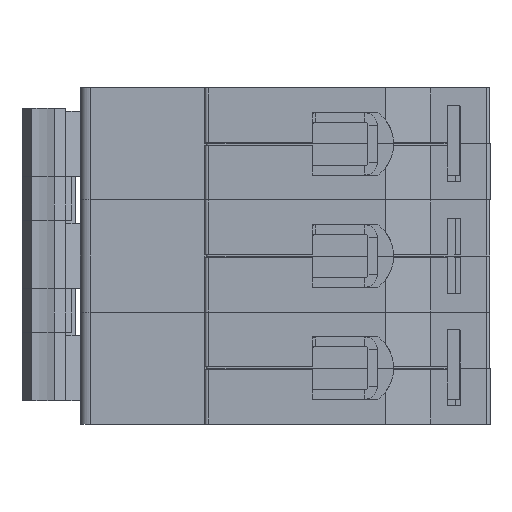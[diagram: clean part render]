
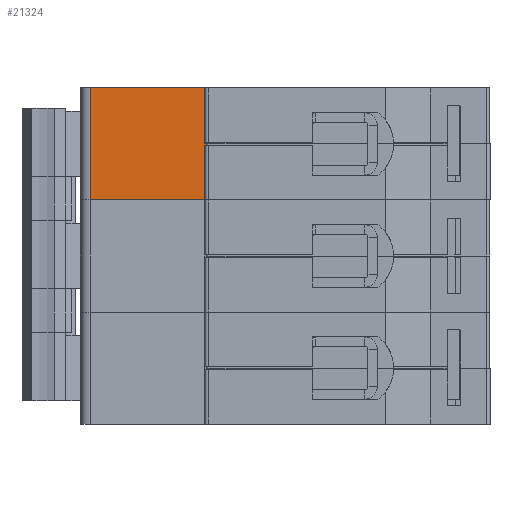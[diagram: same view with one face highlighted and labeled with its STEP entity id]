
A CAD part, left-side view. The second image highlights one B-rep face of the part: STEP entity #21324.
In plain terms, the highlighted planar face has unit normal (-1, 0, 0).
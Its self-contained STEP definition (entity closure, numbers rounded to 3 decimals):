
#92 = CARTESIAN_POINT ( 'NONE',  ( -14., -12., -9. ) ) ;
#357 = LINE ( 'NONE', #21350, #1688 ) ;
#462 = VECTOR ( 'NONE', #19351, 1000. ) ;
#581 = DIRECTION ( 'NONE',  ( 0., -1., 0. ) ) ;
#1417 = ORIENTED_EDGE ( 'NONE', *, *, #21599, .F. ) ;
#1688 = VECTOR ( 'NONE', #13024, 1000. ) ;
#1772 = CARTESIAN_POINT ( 'NONE',  ( -14., -12.2, -0.2 ) ) ;
#2041 = PLANE ( 'NONE',  #16080 ) ;
#2281 = VECTOR ( 'NONE', #9424, 1000. ) ;
#2636 = CARTESIAN_POINT ( 'NONE',  ( -14., -12., -1. ) ) ;
#2828 = LINE ( 'NONE', #5492, #3884 ) ;
#2841 = EDGE_CURVE ( 'NONE', #11385, #10227, #357, .T. ) ;
#2844 = EDGE_CURVE ( 'NONE', #10254, #20017, #18842, .T. ) ;
#2951 = DIRECTION ( 'NONE',  ( 0., 1., 0. ) ) ;
#2993 = VECTOR ( 'NONE', #21257, 1000. ) ;
#3543 = CARTESIAN_POINT ( 'NONE',  ( -14., -12., 0. ) ) ;
#3884 = VECTOR ( 'NONE', #581, 1000. ) ;
#4173 = VECTOR ( 'NONE', #21143, 1000. ) ;
#4418 = CARTESIAN_POINT ( 'NONE',  ( -14., -12.2, -0.2 ) ) ;
#4622 = VECTOR ( 'NONE', #2951, 1000. ) ;
#5257 = FACE_OUTER_BOUND ( 'NONE', #14473, .T. ) ;
#5492 = CARTESIAN_POINT ( 'NONE',  ( -14., -12., -9. ) ) ;
#5909 = VERTEX_POINT ( 'NONE', #19044 ) ;
#6555 = LINE ( 'NONE', #7705, #4173 ) ;
#7136 = DIRECTION ( 'NONE',  ( 0., -1., 0. ) ) ;
#7469 = LINE ( 'NONE', #2636, #2993 ) ;
#7705 = CARTESIAN_POINT ( 'NONE',  ( -14., -12., -9. ) ) ;
#8358 = ORIENTED_EDGE ( 'NONE', *, *, #19064, .F. ) ;
#9424 = DIRECTION ( 'NONE',  ( 0., 0., 1. ) ) ;
#10227 = VERTEX_POINT ( 'NONE', #14863 ) ;
#10254 = VERTEX_POINT ( 'NONE', #13170 ) ;
#10572 = ORIENTED_EDGE ( 'NONE', *, *, #10640, .T. ) ;
#10640 = EDGE_CURVE ( 'NONE', #20017, #11740, #7469, .T. ) ;
#10694 = ORIENTED_EDGE ( 'NONE', *, *, #2841, .F. ) ;
#10869 = ORIENTED_EDGE ( 'NONE', *, *, #2844, .T. ) ;
#11385 = VERTEX_POINT ( 'NONE', #18354 ) ;
#11553 = CARTESIAN_POINT ( 'NONE',  ( -14., -12., -0.2 ) ) ;
#11740 = VERTEX_POINT ( 'NONE', #14830 ) ;
#12133 = ORIENTED_EDGE ( 'NONE', *, *, #16920, .T. ) ;
#12852 = LINE ( 'NONE', #17891, #462 ) ;
#13024 = DIRECTION ( 'NONE',  ( 0., 0., 1. ) ) ;
#13170 = CARTESIAN_POINT ( 'NONE',  ( -14., -12.2, 0. ) ) ;
#13643 = DIRECTION ( 'NONE',  ( -1., 0., 0. ) ) ;
#13933 = CARTESIAN_POINT ( 'NONE',  ( -14., -12., -0.2 ) ) ;
#14011 = VERTEX_POINT ( 'NONE', #1772 ) ;
#14129 = EDGE_CURVE ( 'NONE', #11385, #5909, #2828, .T. ) ;
#14308 = VECTOR ( 'NONE', #18455, 1000. ) ;
#14473 = EDGE_LOOP ( 'NONE', ( #1417, #10694, #21535, #12133, #8358, #21096, #10869, #10572 ) ) ;
#14830 = CARTESIAN_POINT ( 'NONE',  ( -14., -12., 9. ) ) ;
#14863 = CARTESIAN_POINT ( 'NONE',  ( -14., 6.4, 9. ) ) ;
#16080 = AXIS2_PLACEMENT_3D ( 'NONE', #92, #13643, #7136 ) ;
#16138 = CARTESIAN_POINT ( 'NONE',  ( -14., -12., 0. ) ) ;
#16920 = EDGE_CURVE ( 'NONE', #5909, #18589, #6555, .T. ) ;
#17560 = EDGE_CURVE ( 'NONE', #14011, #10254, #18626, .T. ) ;
#17891 = CARTESIAN_POINT ( 'NONE',  ( -14., -12., 9. ) ) ;
#18354 = CARTESIAN_POINT ( 'NONE',  ( -14., 6.4, -9. ) ) ;
#18455 = DIRECTION ( 'NONE',  ( 0., 1., 0. ) ) ;
#18589 = VERTEX_POINT ( 'NONE', #13933 ) ;
#18626 = LINE ( 'NONE', #4418, #2281 ) ;
#18842 = LINE ( 'NONE', #16138, #4622 ) ;
#19044 = CARTESIAN_POINT ( 'NONE',  ( -14., -12., -9. ) ) ;
#19064 = EDGE_CURVE ( 'NONE', #14011, #18589, #19348, .T. ) ;
#19348 = LINE ( 'NONE', #11553, #14308 ) ;
#19351 = DIRECTION ( 'NONE',  ( 0., -1., 0. ) ) ;
#20017 = VERTEX_POINT ( 'NONE', #3543 ) ;
#21096 = ORIENTED_EDGE ( 'NONE', *, *, #17560, .T. ) ;
#21143 = DIRECTION ( 'NONE',  ( 0., 0., 1. ) ) ;
#21257 = DIRECTION ( 'NONE',  ( 0., 0., 1. ) ) ;
#21324 = ADVANCED_FACE ( 'NONE', ( #5257 ), #2041, .T. ) ;
#21350 = CARTESIAN_POINT ( 'NONE',  ( -14., 6.4, -9. ) ) ;
#21535 = ORIENTED_EDGE ( 'NONE', *, *, #14129, .T. ) ;
#21599 = EDGE_CURVE ( 'NONE', #10227, #11740, #12852, .T. ) ;
